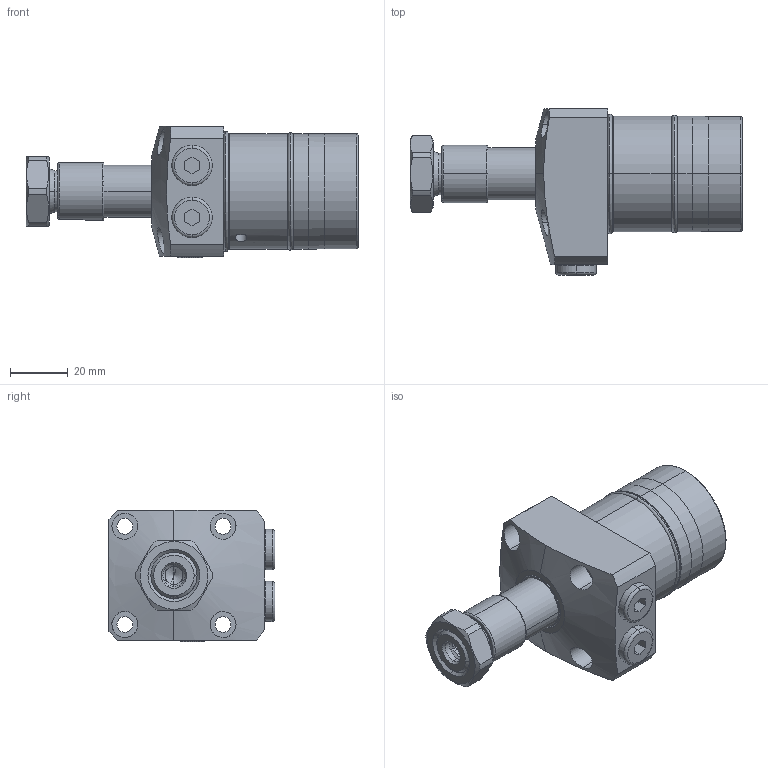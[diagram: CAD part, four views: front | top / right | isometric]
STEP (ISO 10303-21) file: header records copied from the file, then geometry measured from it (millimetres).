
FILE_DESCRIPTION(/* description */ (''),/* implementation_level */ '2;1');
FILE_NAME(/* name */ 'KTRW40-LJ.stp',/* time_stamp */ '2022-11-18T13:16:47+08:00',/* author */ (''),/* organization */ (''),/* preprocessor_version */ 'ST-DEVELOPER v16.7',/* originating_system */ 'SIEMENS PLM Software NX 12.0',/* authorisation */ '');
FILE_SCHEMA (('AP203_CONFIGURATION_CONTROLLED_3D_DESIGN_OF_MECHANICAL_PARTS_AND_ASSEMBLIES_MIM_LF { 1 0 10303 403 2 1 2}'));
Length unit declared in the file: millimetre
Products named in the file (8): KTRW40-LJ-02; KTRW40-LJ-01; KTRW40-LJ-03; KTRW40-LJ-04; KTRW40-LJ-05; KTRW40-LJ-07; KTRW40-LJ-06; LHW0401-CLJ_step
Assembly tree (9 placements, depth 2):
  LHW0401-CLJ_step
    KTRW40-LJ-06
    KTRW40-LJ-07  x2
    KTRW40-LJ-05
    KTRW40-LJ-04  x2
    KTRW40-LJ-03
    KTRW40-LJ-01
    KTRW40-LJ-02
Bounding box: 115 x 57.5 x 45.4 mm (x, y, z)
Volume: 119601.9 mm3; surface area: 28324.5 mm2
Topology: 11 solids, 11 shells, 349 faces, 778 edges, 475 vertices
Faces by surface type: cylinder 106, plane 98, torus 74, cone 69, sphere 2
Entity records: 9624 total; most frequent: CARTESIAN_POINT 1920, DIRECTION 1537, ORIENTED_EDGE 1316, EDGE_CURVE 658, AXIS2_PLACEMENT_3D 654, VERTEX_POINT 405, CIRCLE 351, EDGE_LOOP 333
